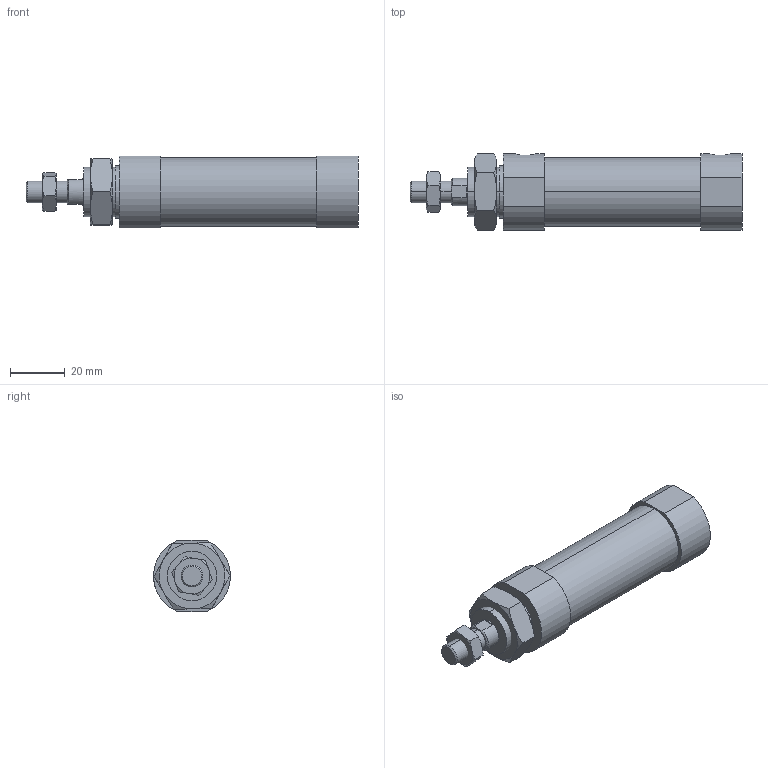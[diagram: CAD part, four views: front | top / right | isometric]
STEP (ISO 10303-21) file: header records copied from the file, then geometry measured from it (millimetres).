
FILE_DESCRIPTION (( 'STEP AP203' ), '1' );
FILE_NAME ('JGND2-20-25-N.STEP', '2016-08-04T02:21:53', ( '' ), ( '' ), 'SwSTEP 2.0', 'SolidWorks 2014', '' );
FILE_SCHEMA (( 'CONFIG_CONTROL_DESIGN' ));
Length unit declared in the file: millimetre
Products named in the file (4): J#2-20-25(P); JGND2-20-25-N
Assembly tree (3 placements, depth 2):
  JGND2-20-25-N
    J#2-20-25(P)
    (unnamed)
    (unnamed)
Bounding box: 121 x 28 x 26 mm (x, y, z)
Volume: 51863.8 mm3; surface area: 12682.4 mm2
Topology: 3 solids, 3 shells, 84 faces, 182 edges, 112 vertices
Faces by surface type: plane 34, torus 24, cylinder 22, cone 4
Entity records: 3040 total; most frequent: CARTESIAN_POINT 840, DIRECTION 378, ORIENTED_EDGE 364, EDGE_CURVE 182, AXIS2_PLACEMENT_3D 162, VERTEX_POINT 112, EDGE_LOOP 96, ADVANCED_FACE 84
